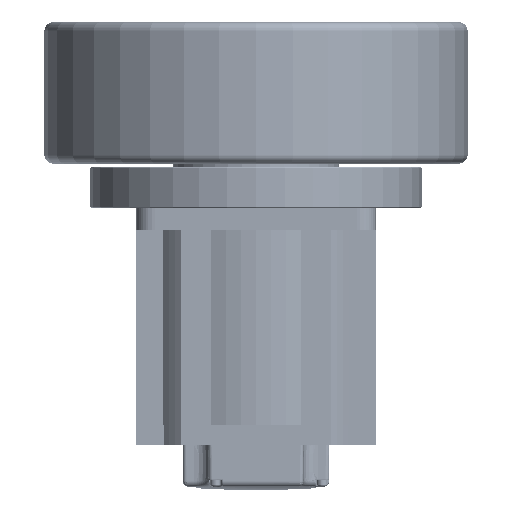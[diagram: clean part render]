
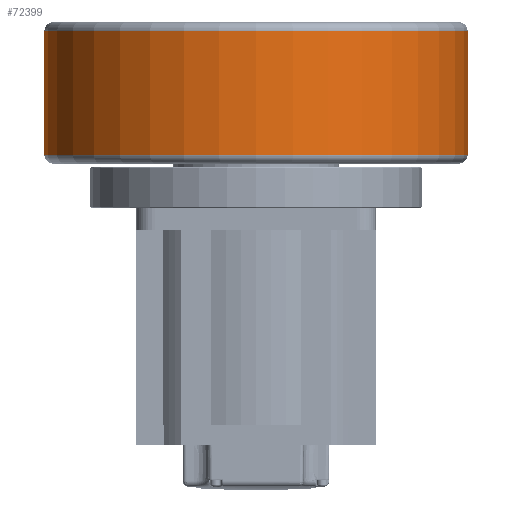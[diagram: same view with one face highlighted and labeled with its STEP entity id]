
A CAD part, left-side view. The second image highlights one B-rep face of the part: STEP entity #72399.
In plain terms, the highlighted cylindrical face has radius 115 mm (diameter 230 mm), a partial arc.
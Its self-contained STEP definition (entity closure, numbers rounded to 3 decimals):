
#70578=CARTESIAN_POINT('',(5.,0.,0.));
#70579=DIRECTION('',(-1.,0.,0.));
#70580=DIRECTION('',(0.,0.,1.));
#70581=AXIS2_PLACEMENT_3D('',#70578,#70579,#70580);
#70588=DIRECTION('',(1.,0.,0.));
#70589=VECTOR('',#70588,67.);
#70590=CARTESIAN_POINT('',(5.,0.,115.));
#70591=LINE('',#70590,#70589);
#70597=CARTESIAN_POINT('',(72.,0.,0.));
#70598=DIRECTION('',(1.,0.,0.));
#70599=DIRECTION('',(0.,0.,-1.));
#70600=AXIS2_PLACEMENT_3D('',#70597,#70598,#70599);
#70632=DIRECTION('',(1.,0.,0.));
#70633=VECTOR('',#70632,67.);
#70634=CARTESIAN_POINT('',(5.,0.,-115.));
#70635=LINE('',#70634,#70633);
#71736=CARTESIAN_POINT('',(5.,0.,-115.));
#71737=CARTESIAN_POINT('',(72.,0.,-115.));
#71738=VERTEX_POINT('',#71736);
#71739=VERTEX_POINT('',#71737);
#71836=CARTESIAN_POINT('',(72.,0.,115.));
#71837=VERTEX_POINT('',#71836);
#71854=CARTESIAN_POINT('',(5.,0.,115.));
#71855=VERTEX_POINT('',#71854);
#72385=CARTESIAN_POINT('',(0.,0.,0.));
#72386=DIRECTION('',(-1.,0.,0.));
#72387=DIRECTION('',(0.,0.,1.));
#72388=AXIS2_PLACEMENT_3D('',#72385,#72386,#72387);
#72389=CYLINDRICAL_SURFACE('',#72388,115.);
#72391=ORIENTED_EDGE('',*,*,#72390,.T.);
#72393=ORIENTED_EDGE('',*,*,#72392,.F.);
#72394=ORIENTED_EDGE('',*,*,#72375,.T.);
#72396=ORIENTED_EDGE('',*,*,#72395,.T.);
#72397=EDGE_LOOP('',(#72391,#72393,#72394,#72396));
#72398=FACE_OUTER_BOUND('',#72397,.F.);
#72399=ADVANCED_FACE('',(#72398),#72389,.T.);
#70582=CIRCLE('',#70581,115.);
#70601=CIRCLE('',#70600,115.);
#72375=EDGE_CURVE('',#71855,#71738,#70582,.T.);
#72390=EDGE_CURVE('',#71739,#71837,#70601,.T.);
#72392=EDGE_CURVE('',#71855,#71837,#70591,.T.);
#72395=EDGE_CURVE('',#71738,#71739,#70635,.T.);
